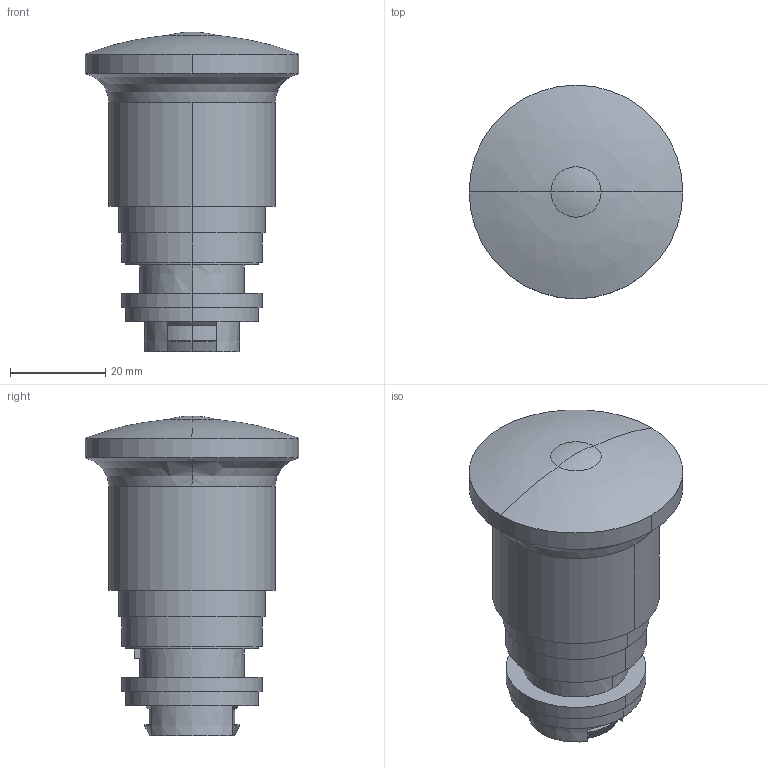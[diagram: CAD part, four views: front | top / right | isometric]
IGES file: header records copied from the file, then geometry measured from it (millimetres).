
Start section: Data from XPlus IGES,  Spatial Corp. Copyright (c) 1999-2004
Global section: file name: 152862.igs; native system:  By Spatial Corp.; preprocessor: XPlus ACIS/IGES 3.0; author: Noname; organization: Noname; date: 20120615.172319; units: millimetre
Bounding box: 45 x 45 x 67.3 mm (x, y, z)
Surface area: 9821.2 mm2 (no closed solid volume)
Topology: 0 solids, 0 shells, 61 faces, 304 edges, 302 vertices
Faces by surface type: revolution 36, extrusion 25
